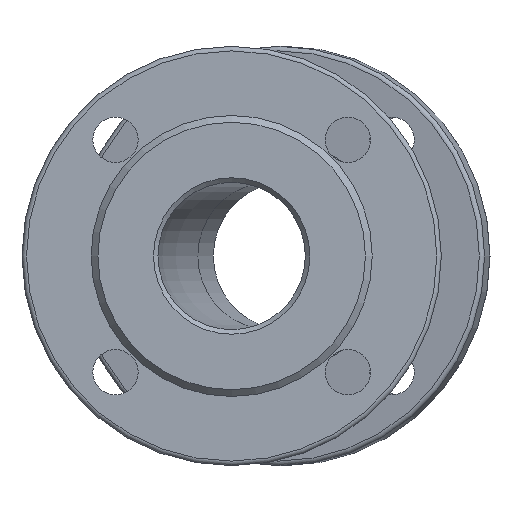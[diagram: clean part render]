
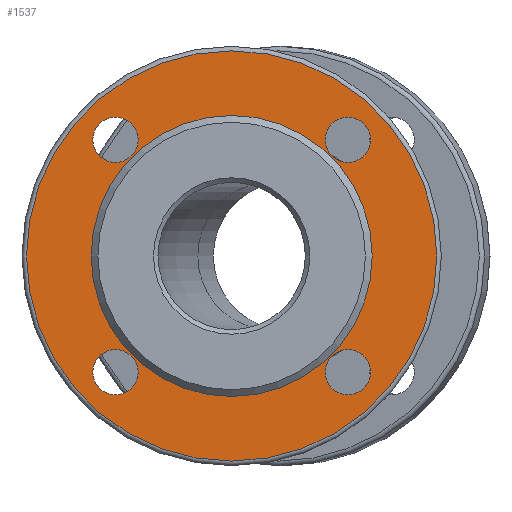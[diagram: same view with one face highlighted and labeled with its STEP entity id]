
A CAD part, left-side view. The second image highlights one B-rep face of the part: STEP entity #1537.
In plain terms, the highlighted planar face has unit normal (-1, 0, 0).
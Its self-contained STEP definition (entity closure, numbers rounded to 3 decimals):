
#19 = VERTEX_POINT ( 'NONE', #1916 ) ;
#63 = EDGE_CURVE ( 'NONE', #3498, #3498, #366, .T. ) ;
#82 = EDGE_LOOP ( 'NONE', ( #4581 ) ) ;
#142 = VERTEX_POINT ( 'NONE', #843 ) ;
#254 = DIRECTION ( 'NONE',  ( 1., 0., 0. ) ) ;
#265 = CARTESIAN_POINT ( 'NONE',  ( 3., 51.265, -51.265 ) ) ;
#268 = AXIS2_PLACEMENT_3D ( 'NONE', #2902, #4517, #4445 ) ;
#278 = DIRECTION ( 'NONE',  ( 0., 0., -1. ) ) ;
#356 = DIRECTION ( 'NONE',  ( -1., 0., 0. ) ) ;
#366 = CIRCLE ( 'NONE', #1415, 62. ) ;
#520 = VERTEX_POINT ( 'NONE', #4307 ) ;
#552 = CARTESIAN_POINT ( 'NONE',  ( 3., 0., 0. ) ) ;
#569 = CIRCLE ( 'NONE', #3973, 10. ) ;
#843 = CARTESIAN_POINT ( 'NONE',  ( 3., -51.265, -61.265 ) ) ;
#845 = ORIENTED_EDGE ( 'NONE', *, *, #1241, .T. ) ;
#864 = PLANE ( 'NONE',  #2472 ) ;
#937 = FACE_BOUND ( 'NONE', #4708, .T. ) ;
#947 = ORIENTED_EDGE ( 'NONE', *, *, #4222, .F. ) ;
#1241 = EDGE_CURVE ( 'NONE', #19, #19, #4804, .T. ) ;
#1415 = AXIS2_PLACEMENT_3D ( 'NONE', #552, #3369, #3042 ) ;
#1537 = ADVANCED_FACE ( 'NONE', ( #4706, #937, #4024, #2104, #3640, #4329 ), #864, .F. ) ;
#1633 = VERTEX_POINT ( 'NONE', #3572 ) ;
#1848 = EDGE_LOOP ( 'NONE', ( #2538 ) ) ;
#1905 = AXIS2_PLACEMENT_3D ( 'NONE', #3897, #3924, #4227 ) ;
#1916 = CARTESIAN_POINT ( 'NONE',  ( 3., 0., -90.5 ) ) ;
#2104 = FACE_BOUND ( 'NONE', #1848, .T. ) ;
#2193 = EDGE_CURVE ( 'NONE', #3237, #3237, #2454, .T. ) ;
#2200 = EDGE_LOOP ( 'NONE', ( #2462 ) ) ;
#2238 = DIRECTION ( 'NONE',  ( -1., 0., 0. ) ) ;
#2409 = CARTESIAN_POINT ( 'NONE',  ( 3., 62., 0. ) ) ;
#2454 = CIRCLE ( 'NONE', #268, 10. ) ;
#2462 = ORIENTED_EDGE ( 'NONE', *, *, #4816, .F. ) ;
#2472 = AXIS2_PLACEMENT_3D ( 'NONE', #2409, #254, #4073 ) ;
#2481 = DIRECTION ( 'NONE',  ( -1., 0., 0. ) ) ;
#2538 = ORIENTED_EDGE ( 'NONE', *, *, #63, .F. ) ;
#2556 = DIRECTION ( 'NONE',  ( 0., 0., -1. ) ) ;
#2757 = ORIENTED_EDGE ( 'NONE', *, *, #4010, .F. ) ;
#2902 = CARTESIAN_POINT ( 'NONE',  ( 3., -51.265, 51.265 ) ) ;
#2965 = CIRCLE ( 'NONE', #4986, 10. ) ;
#3042 = DIRECTION ( 'NONE',  ( 0., 0., 1. ) ) ;
#3237 = VERTEX_POINT ( 'NONE', #3621 ) ;
#3360 = EDGE_LOOP ( 'NONE', ( #845 ) ) ;
#3369 = DIRECTION ( 'NONE',  ( -1., 0., 0. ) ) ;
#3417 = CARTESIAN_POINT ( 'NONE',  ( 3., 0., 62. ) ) ;
#3498 = VERTEX_POINT ( 'NONE', #3417 ) ;
#3572 = CARTESIAN_POINT ( 'NONE',  ( 3., 51.265, -61.265 ) ) ;
#3621 = CARTESIAN_POINT ( 'NONE',  ( 3., -51.265, 41.265 ) ) ;
#3640 = FACE_BOUND ( 'NONE', #2200, .T. ) ;
#3897 = CARTESIAN_POINT ( 'NONE',  ( 3., 0., 0. ) ) ;
#3924 = DIRECTION ( 'NONE',  ( -1., 0., 0. ) ) ;
#3973 = AXIS2_PLACEMENT_3D ( 'NONE', #4825, #2481, #2556 ) ;
#4010 = EDGE_CURVE ( 'NONE', #520, #520, #569, .T. ) ;
#4024 = FACE_BOUND ( 'NONE', #4661, .T. ) ;
#4073 = DIRECTION ( 'NONE',  ( 0., 0., -1. ) ) ;
#4102 = CIRCLE ( 'NONE', #4262, 10. ) ;
#4222 = EDGE_CURVE ( 'NONE', #142, #142, #2965, .T. ) ;
#4227 = DIRECTION ( 'NONE',  ( 0., 0., -1. ) ) ;
#4262 = AXIS2_PLACEMENT_3D ( 'NONE', #265, #2238, #4557 ) ;
#4307 = CARTESIAN_POINT ( 'NONE',  ( 3., 51.265, 41.265 ) ) ;
#4329 = FACE_BOUND ( 'NONE', #82, .T. ) ;
#4445 = DIRECTION ( 'NONE',  ( 0., 0., -1. ) ) ;
#4517 = DIRECTION ( 'NONE',  ( -1., 0., 0. ) ) ;
#4543 = CARTESIAN_POINT ( 'NONE',  ( 3., -51.265, -51.265 ) ) ;
#4557 = DIRECTION ( 'NONE',  ( 0., 0., -1. ) ) ;
#4581 = ORIENTED_EDGE ( 'NONE', *, *, #2193, .F. ) ;
#4661 = EDGE_LOOP ( 'NONE', ( #2757 ) ) ;
#4706 = FACE_OUTER_BOUND ( 'NONE', #3360, .T. ) ;
#4708 = EDGE_LOOP ( 'NONE', ( #947 ) ) ;
#4804 = CIRCLE ( 'NONE', #1905, 90.5 ) ;
#4816 = EDGE_CURVE ( 'NONE', #1633, #1633, #4102, .T. ) ;
#4825 = CARTESIAN_POINT ( 'NONE',  ( 3., 51.265, 51.265 ) ) ;
#4986 = AXIS2_PLACEMENT_3D ( 'NONE', #4543, #356, #278 ) ;
